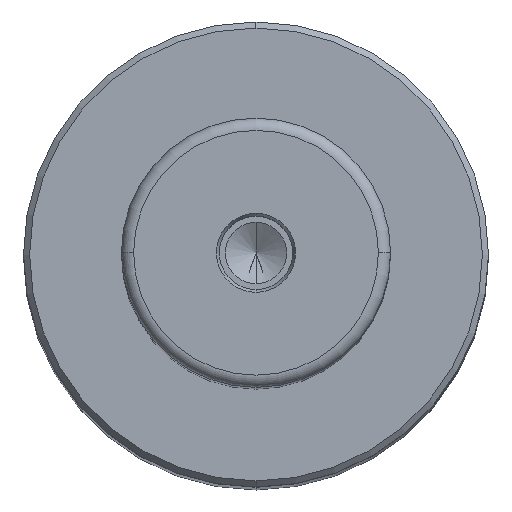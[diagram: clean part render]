
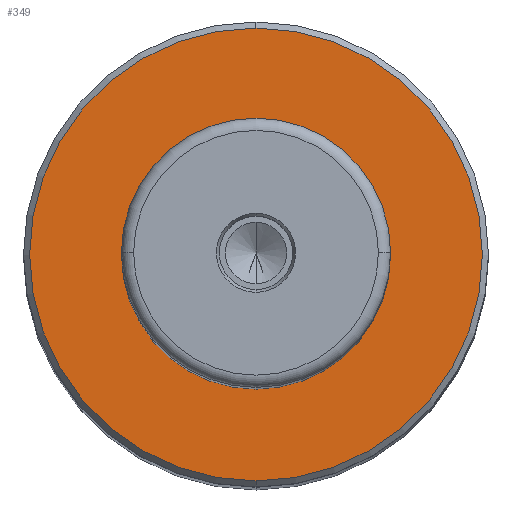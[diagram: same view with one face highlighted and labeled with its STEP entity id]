
A CAD part, top view. The second image highlights one B-rep face of the part: STEP entity #349.
In plain terms, the highlighted planar face has unit normal (0, 0, 1).
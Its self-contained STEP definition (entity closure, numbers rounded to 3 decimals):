
#252 = VERTEX_POINT('',#253);
#253 = CARTESIAN_POINT('',(0.,18.5,139.));
#259 = EDGE_CURVE('',#260,#252,#262,.T.);
#260 = VERTEX_POINT('',#261);
#261 = CARTESIAN_POINT('',(0.,-18.5,139.));
#262 = CIRCLE('',#263,18.5);
#263 = AXIS2_PLACEMENT_3D('',#264,#265,#266);
#264 = CARTESIAN_POINT('',(0.,0.,139.));
#265 = DIRECTION('',(0.,0.,1.));
#266 = DIRECTION('',(0.,1.,0.));
#286 = EDGE_CURVE('',#252,#260,#287,.T.);
#287 = CIRCLE('',#288,18.5);
#288 = AXIS2_PLACEMENT_3D('',#289,#290,#291);
#289 = CARTESIAN_POINT('',(0.,0.,139.));
#290 = DIRECTION('',(0.,0.,1.));
#291 = DIRECTION('',(0.,1.,0.));
#349 = ADVANCED_FACE('',(#350,#370),#374,.T.);
#350 = FACE_BOUND('',#351,.T.);
#351 = EDGE_LOOP('',(#352,#363));
#352 = ORIENTED_EDGE('',*,*,#353,.F.);
#353 = EDGE_CURVE('',#354,#356,#358,.T.);
#354 = VERTEX_POINT('',#355);
#355 = CARTESIAN_POINT('',(0.,11.,139.));
#356 = VERTEX_POINT('',#357);
#357 = CARTESIAN_POINT('',(0.,-11.,139.));
#358 = CIRCLE('',#359,11.);
#359 = AXIS2_PLACEMENT_3D('',#360,#361,#362);
#360 = CARTESIAN_POINT('',(0.,0.,139.));
#361 = DIRECTION('',(0.,0.,1.));
#362 = DIRECTION('',(0.,1.,0.));
#363 = ORIENTED_EDGE('',*,*,#364,.F.);
#364 = EDGE_CURVE('',#356,#354,#365,.T.);
#365 = CIRCLE('',#366,11.);
#366 = AXIS2_PLACEMENT_3D('',#367,#368,#369);
#367 = CARTESIAN_POINT('',(0.,0.,139.));
#368 = DIRECTION('',(0.,0.,1.));
#369 = DIRECTION('',(0.,1.,0.));
#370 = FACE_BOUND('',#371,.T.);
#371 = EDGE_LOOP('',(#372,#373));
#372 = ORIENTED_EDGE('',*,*,#286,.T.);
#373 = ORIENTED_EDGE('',*,*,#259,.T.);
#374 = PLANE('',#375);
#375 = AXIS2_PLACEMENT_3D('',#376,#377,#378);
#376 = CARTESIAN_POINT('',(0.,14.75,139.));
#377 = DIRECTION('',(0.,0.,1.));
#378 = DIRECTION('',(0.,1.,0.));
